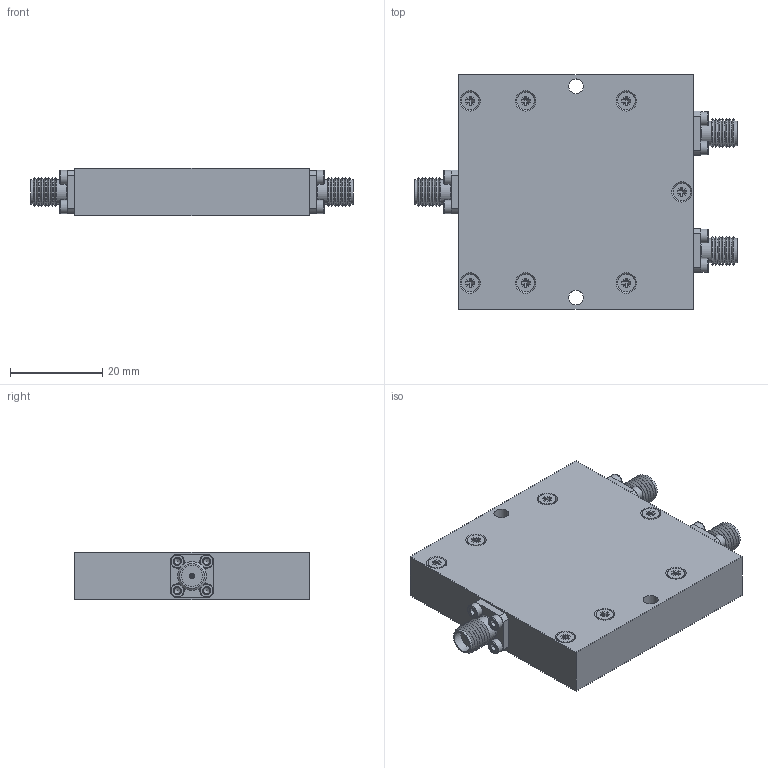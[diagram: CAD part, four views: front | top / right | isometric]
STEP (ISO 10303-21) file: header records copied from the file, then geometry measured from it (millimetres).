
FILE_DESCRIPTION(/* description */ ('Unknown'),/* implementation_level */ '2;1');
FILE_NAME(/* name */ 'DETI_MICROWAVE_2-WAY_POWER_DIVIDER_800279_STEP',/* time_stamp */ '2021-06-29T15:43:09+02:00',/* author */ ('ALG'),/* organization */ ('DETI'),/* preprocessor_version */ 'ST-DEVELOPER v16.7',/* originating_system */ 'Solid Edge',/* authorisation */ 'Unknown');
FILE_SCHEMA (('AUTOMOTIVE_DESIGN {1 0 10303 214 3 1 1}'));
Length unit declared in the file: millimetre
Products named in the file (1): DI-2-6-S2
Bounding box: 69.8 x 50.8 x 10.29 mm (x, y, z)
Volume: 27313.3 mm3; surface area: 9368.6 mm2
Topology: 1 solids, 35 shells, 643 faces, 1565 edges, 1024 vertices
Faces by surface type: plane 386, cylinder 114, cone 109, torus 34
Full cylindrical faces by diameter (mm): 0.47 x3, 1.1 x3, 1.221 x12, 1.27 x6, 1.567 x7, 1.6 x12, 1.8 x12, 2 x7, 2.2 x7, 3 x12, 3.2 x2, 3.8 x7, 4.1 x3, 4.6 x3, 5.3 x6
Entity records: 21022 total; most frequent: CARTESIAN_POINT 2978, DIRECTION 2742, ORIENTED_EDGE 2402, EDGE_CURVE 1201, FACE_BOUND 992, AXIS2_PLACEMENT_3D 975, EDGE_LOOP 968, VERTEX_POINT 929
